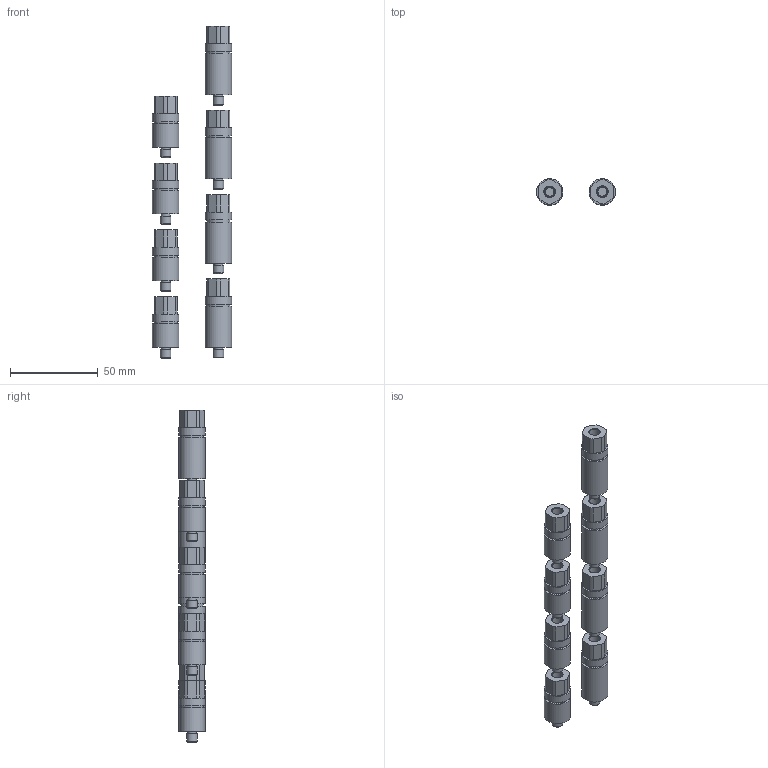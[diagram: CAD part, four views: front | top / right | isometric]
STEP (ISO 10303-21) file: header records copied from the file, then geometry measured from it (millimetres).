
FILE_DESCRIPTION(('STEP AP214'),'1');
FILE_NAME(').stp','2023-06-12T01:12:05',(' '),(' '),'Spatial InterOp 3D',' ',' ');
FILE_SCHEMA(('AUTOMOTIVE_DESIGN { 1 0 10303 214 1 1 1 1 }'));
Length unit declared in the file: millimetre
Products named in the file (9): shaft 02; shaft 03
Assembly tree (8 placements, depth 2):
  (unnamed)
    shaft 02
    shaft 03
    shaft 02
    shaft 02
    shaft 02
    shaft 03
    shaft 03
    shaft 03
Bounding box: 45 x 15 x 189 mm (x, y, z)
Volume: 42979.2 mm3; surface area: 19128.3 mm2
Topology: 8 solids, 8 shells, 240 faces, 504 edges, 336 vertices
Faces by surface type: plane 120, cylinder 104, cone 16
Full cylindrical faces by diameter (mm): 5 x16, 6 x16, 13 x8, 15 x16
Entity records: 8098 total; most frequent: DIRECTION 1138, CARTESIAN_POINT 985, ORIENTED_EDGE 832, AXIS2_PLACEMENT_3D 473, EDGE_CURVE 416, EDGE_LOOP 368, VERTEX_POINT 320, FACE_OUTER_BOUND 296
